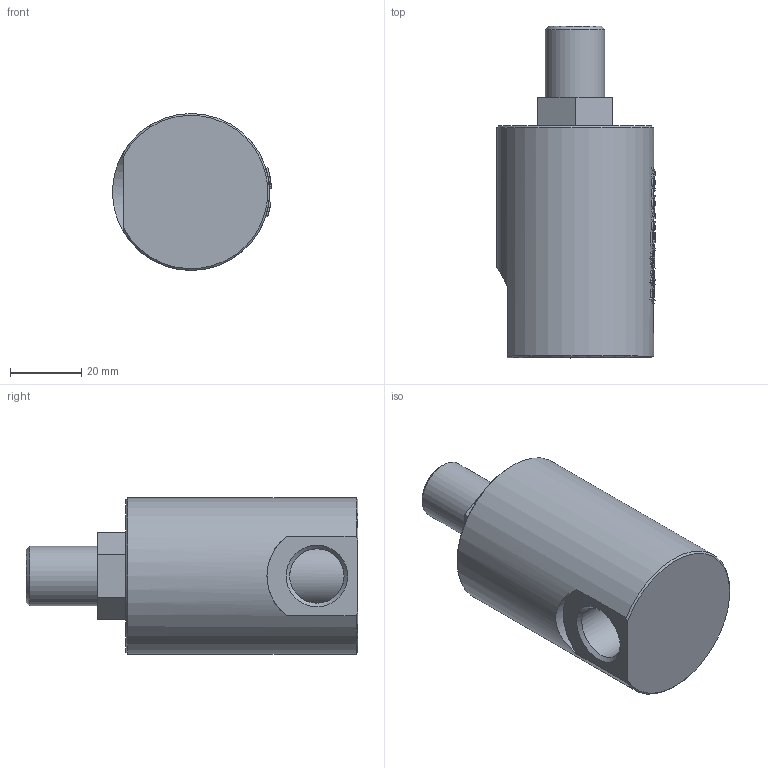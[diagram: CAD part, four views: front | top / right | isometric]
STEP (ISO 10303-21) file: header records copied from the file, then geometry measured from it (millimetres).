
FILE_DESCRIPTION(/* description */ (''),/* implementation_level */ '2;1');
FILE_NAME(/* name */ 'GSC0103.stp',/* time_stamp */ '2025-01-20T16:25:09+08:00',/* author */ (''),/* organization */ (''),/* preprocessor_version */ 'ST-DEVELOPER v16.7',/* originating_system */ 'SIEMENS PLM Software NX 12.0',/* authorisation */ '');
FILE_SCHEMA (('AUTOMOTIVE_DESIGN { 1 0 10303 214 3 1 1 1 }'));
Length unit declared in the file: millimetre
Products named in the file (1): HX056BE06534dde5
Bounding box: 44.47 x 93 x 44 mm (x, y, z)
Volume: 101484 mm3; surface area: 15294.9 mm2
Topology: 1 solids, 1 shells, 348 faces, 898 edges, 601 vertices
Faces by surface type: plane 198, extrusion 88, bspline 29, cylinder 22, cone 11
Full cylindrical faces by diameter (mm): 10 x1, 15.25 x1, 16.67 x1, 44 x1
Entity records: 29229 total; most frequent: CARTESIAN_POINT 21897, ORIENTED_EDGE 1742, DIRECTION 983, EDGE_CURVE 871, B_SPLINE_CURVE_WITH_KNOTS 677, VERTEX_POINT 599, EDGE_LOOP 422, AXIS2_PLACEMENT_3D 381
